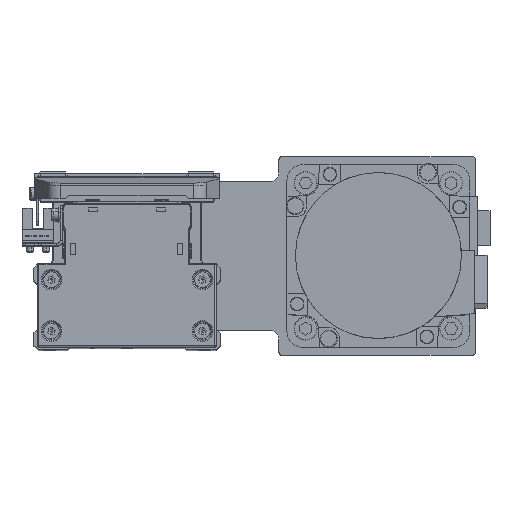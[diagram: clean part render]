
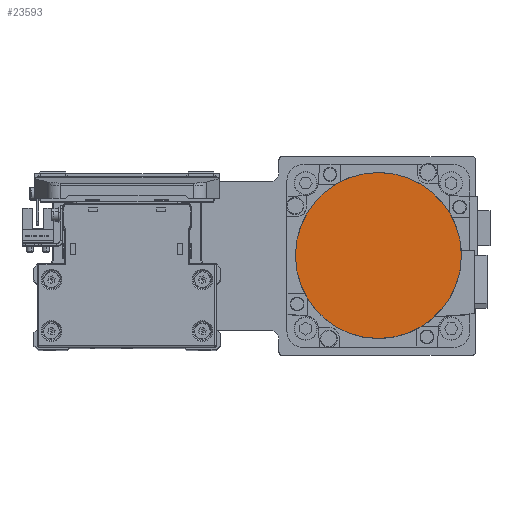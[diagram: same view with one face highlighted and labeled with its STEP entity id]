
A CAD part, top view. The second image highlights one B-rep face of the part: STEP entity #23593.
In plain terms, the highlighted planar face has unit normal (0, 0, 1) as drawn and (0, 0, -1) by its records, which use the part's own axes.
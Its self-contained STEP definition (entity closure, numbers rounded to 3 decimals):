
#816 = AXIS2_PLACEMENT_3D ( 'NONE', #21135, #33201, #6127 ) ;
#2878 = VERTEX_POINT ( 'NONE', #21494 ) ;
#3548 = AXIS2_PLACEMENT_3D ( 'NONE', #18923, #30988, #3922 ) ;
#3922 = DIRECTION ( 'NONE',  ( 0., -1., 0. ) ) ;
#5904 = ORIENTED_EDGE ( 'NONE', *, *, #12490, .F. ) ;
#6127 = DIRECTION ( 'NONE',  ( 0., 1., 0. ) ) ;
#9369 = CARTESIAN_POINT ( 'NONE',  ( 0., 0., -122.2 ) ) ;
#10499 = CARTESIAN_POINT ( 'NONE',  ( 0., -36.3, -122.2 ) ) ;
#12490 = EDGE_CURVE ( 'NONE', #35952, #2878, #20591, .T. ) ;
#15845 = EDGE_LOOP ( 'NONE', ( #21390, #5904 ) ) ;
#17101 = EDGE_CURVE ( 'NONE', #2878, #35952, #17841, .T. ) ;
#17841 = CIRCLE ( 'NONE', #816, 36.3 ) ;
#18923 = CARTESIAN_POINT ( 'NONE',  ( 0., 0., -122.2 ) ) ;
#20591 = CIRCLE ( 'NONE', #3548, 36.3 ) ;
#21135 = CARTESIAN_POINT ( 'NONE',  ( 0., 0., -122.2 ) ) ;
#21390 = ORIENTED_EDGE ( 'NONE', *, *, #17101, .F. ) ;
#21410 = DIRECTION ( 'NONE',  ( 0., 0., 1. ) ) ;
#21494 = CARTESIAN_POINT ( 'NONE',  ( 0., 36.3, -122.2 ) ) ;
#23593 = ADVANCED_FACE ( 'NONE', ( #24375 ), #36441, .F. ) ;
#24375 = FACE_OUTER_BOUND ( 'NONE', #15845, .T. ) ;
#26820 = AXIS2_PLACEMENT_3D ( 'NONE', #9369, #21410, #33474 ) ;
#30988 = DIRECTION ( 'NONE',  ( 0., 0., 1. ) ) ;
#33201 = DIRECTION ( 'NONE',  ( 0., 0., 1. ) ) ;
#33474 = DIRECTION ( 'NONE',  ( 1., 0., 0. ) ) ;
#35952 = VERTEX_POINT ( 'NONE', #10499 ) ;
#36441 = PLANE ( 'NONE',  #26820 ) ;
